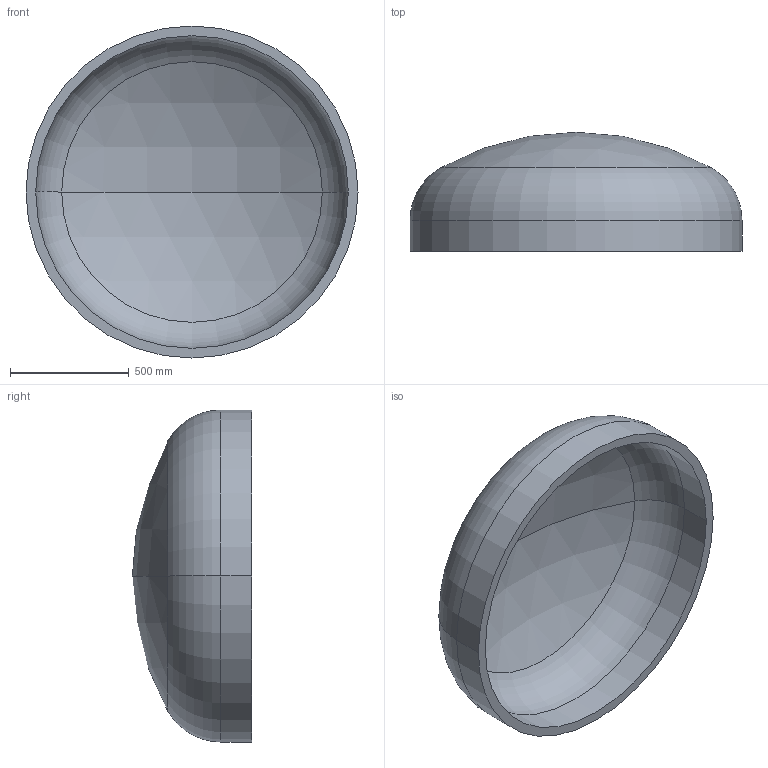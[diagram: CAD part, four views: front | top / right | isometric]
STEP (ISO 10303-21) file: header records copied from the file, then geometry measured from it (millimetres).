
FILE_DESCRIPTION (( 'STEP AP203' ), '1' );
FILE_NAME ('DIN 28013 Korbbogenform_-_Boden DIN 28013 - 1400 x 130 - I - s=41.step', '2016-07-01T10:17:44', ( '' ), ( '' ), 'SwSTEP 2.0', 'SolidWorks 2013', '' );
FILE_SCHEMA (( 'CONFIG_CONTROL_DESIGN' ));
Length unit declared in the file: millimetre
Products named in the file (1): DIN 28013 Korbbogenform_-_Boden DIN 28013 - 1400 x 130 - I - s=41
Bounding box: 1400 x 502.4 x 1400 mm (x, y, z)
Volume: 106838840.1 mm3; surface area: 5390216.4 mm2
Topology: 1 solids, 1 shells, 13 faces, 24 edges, 14 vertices
Faces by surface type: torus 4, cylinder 4, sphere 4, plane 1
Entity records: 407 total; most frequent: DIRECTION 72, CARTESIAN_POINT 52, ORIENTED_EDGE 48, AXIS2_PLACEMENT_3D 34, EDGE_CURVE 24, CIRCLE 20, EDGE_LOOP 14, VERTEX_POINT 14
